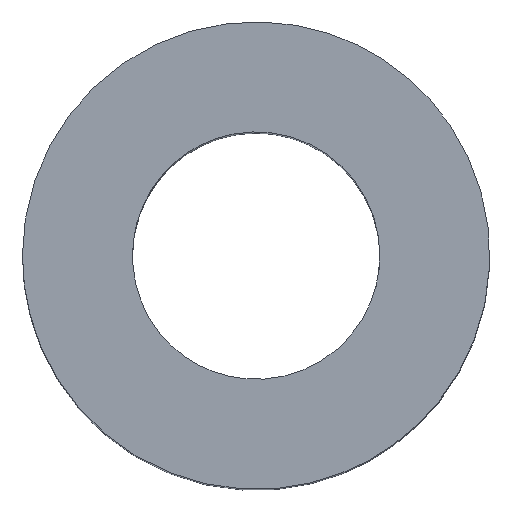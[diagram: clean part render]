
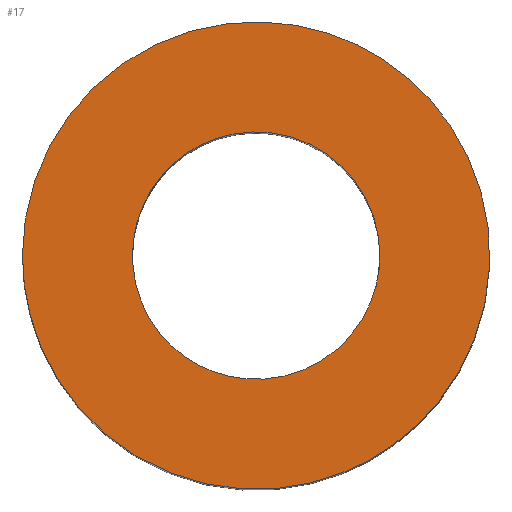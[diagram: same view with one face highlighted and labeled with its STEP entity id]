
A CAD part, top view. The second image highlights one B-rep face of the part: STEP entity #17.
In plain terms, the highlighted free-form (B-spline) face has degree [1, 1] with [2, 2] control points.
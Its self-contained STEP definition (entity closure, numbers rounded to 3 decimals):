
#17 = ADVANCED_FACE('',(#18,#32),#46,.T.);
#18 = FACE_BOUND('',#19,.T.);
#19 = EDGE_LOOP('',(#20));
#20 = ORIENTED_EDGE('',*,*,#21,.F.);
#21 = EDGE_CURVE('',#22,#22,#24,.T.);
#22 = VERTEX_POINT('',#23);
#23 = CARTESIAN_POINT('',(1.35,0.,7.));
#24 = ( BOUNDED_CURVE() B_SPLINE_CURVE(2,(#25,#26,#27,#28,#29,#30,#31),
.UNSPECIFIED.,.T.,.F.) B_SPLINE_CURVE_WITH_KNOTS((1,2,2,2,2,1),(
    -2.094,0.,2.094,4.189,6.283,
8.378),.UNSPECIFIED.) CURVE() GEOMETRIC_REPRESENTATION_ITEM() 
RATIONAL_B_SPLINE_CURVE((1.,0.5,1.,0.5,1.,0.5,1.)) REPRESENTATION_ITEM(
  '') );
#25 = CARTESIAN_POINT('',(1.35,0.,7.));
#26 = CARTESIAN_POINT('',(1.35,2.338,7.));
#27 = CARTESIAN_POINT('',(-0.675,1.169,7.));
#28 = CARTESIAN_POINT('',(-2.7,0.,7.));
#29 = CARTESIAN_POINT('',(-0.675,-1.169,7.));
#30 = CARTESIAN_POINT('',(1.35,-2.338,7.));
#31 = CARTESIAN_POINT('',(1.35,0.,7.));
#32 = FACE_BOUND('',#33,.T.);
#33 = EDGE_LOOP('',(#34));
#34 = ORIENTED_EDGE('',*,*,#35,.F.);
#35 = EDGE_CURVE('',#36,#36,#38,.T.);
#36 = VERTEX_POINT('',#37);
#37 = CARTESIAN_POINT('',(-2.55,0.,7.));
#38 = ( BOUNDED_CURVE() B_SPLINE_CURVE(2,(#39,#40,#41,#42,#43,#44,#45),
.UNSPECIFIED.,.T.,.F.) B_SPLINE_CURVE_WITH_KNOTS((1,2,2,2,2,1),(
    -2.094,0.,2.094,4.189,6.283,
8.378),.UNSPECIFIED.) CURVE() GEOMETRIC_REPRESENTATION_ITEM() 
RATIONAL_B_SPLINE_CURVE((1.,0.5,1.,0.5,1.,0.5,1.)) REPRESENTATION_ITEM(
  '') );
#39 = CARTESIAN_POINT('',(-2.55,0.,7.));
#40 = CARTESIAN_POINT('',(-2.55,4.417,7.));
#41 = CARTESIAN_POINT('',(1.275,2.208,7.));
#42 = CARTESIAN_POINT('',(5.1,0.,7.));
#43 = CARTESIAN_POINT('',(1.275,-2.208,7.));
#44 = CARTESIAN_POINT('',(-2.55,-4.417,7.));
#45 = CARTESIAN_POINT('',(-2.55,0.,7.));
#46 = B_SPLINE_SURFACE_WITH_KNOTS('',1,1,(
    (#47,#48)
    ,(#49,#50
    )),.UNSPECIFIED.,.F.,.F.,.F.,(2,2),(2,2),(0.,5.1),(-2.55,2.55),
  .PIECEWISE_BEZIER_KNOTS.);
#47 = CARTESIAN_POINT('',(-2.55,-2.55,7.));
#48 = CARTESIAN_POINT('',(-2.55,2.55,7.));
#49 = CARTESIAN_POINT('',(2.55,-2.55,7.));
#50 = CARTESIAN_POINT('',(2.55,2.55,7.));
